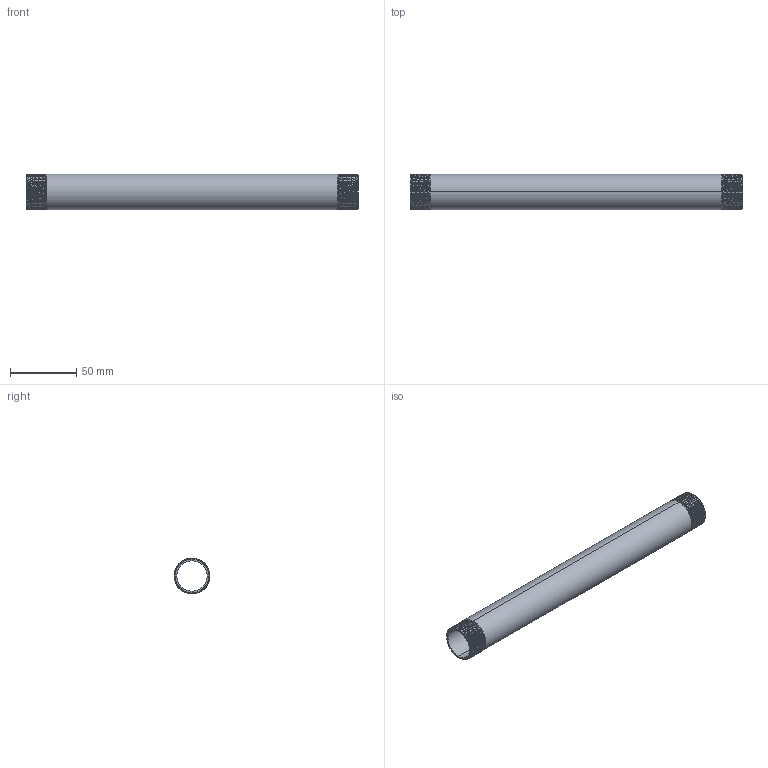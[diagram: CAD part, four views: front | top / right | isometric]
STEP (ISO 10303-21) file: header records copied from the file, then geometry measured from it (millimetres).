
FILE_DESCRIPTION (( 'STEP AP203' ), '1' );
FILE_NAME ('3D_R210_3-4x250_17185927.STEP', '2024-08-16T14:04:35', ( '' ), ( '' ), 'SwSTEP 2.0', 'SolidWorks 2024', '' );
FILE_SCHEMA (( 'CONFIG_CONTROL_DESIGN' ));
Length unit declared in the file: millimetre
Products named in the file (1): 3D_R210_3-4x250_17185927
Bounding box: 250 x 26.89 x 26.9 mm (x, y, z)
Volume: 38333.3 mm3; surface area: 40594.7 mm2
Topology: 1 solids, 1 shells, 80 faces, 226 edges, 148 vertices
Faces by surface type: cone 66, bspline 6, cylinder 4, plane 4
Entity records: 13361 total; most frequent: CARTESIAN_POINT 11499, ORIENTED_EDGE 452, DIRECTION 254, EDGE_CURVE 226, VERTEX_POINT 148, B_SPLINE_CURVE_WITH_KNOTS 128, AXIS2_PLACEMENT_3D 89, EDGE_LOOP 82
